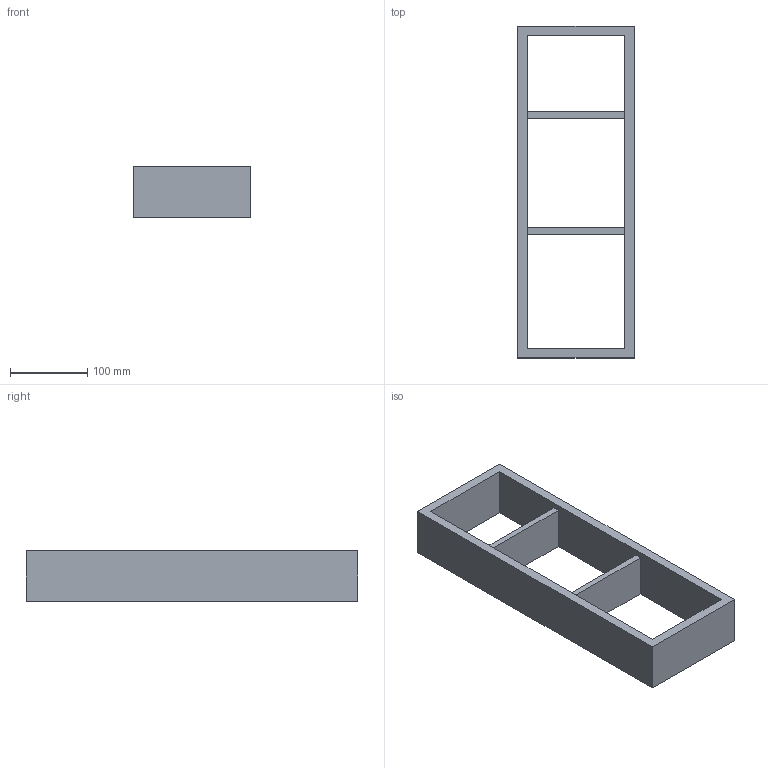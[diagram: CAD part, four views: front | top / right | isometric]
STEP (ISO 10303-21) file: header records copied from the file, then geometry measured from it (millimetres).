
FILE_DESCRIPTION (( 'STEP AP214' ), '1' );
FILE_NAME ('Vario Multi NL450_ZE150_16 mm_Buche.step', '2010-10-07T06:24:20', ( 'grass' ), ( '' ), 'SwSTEP 2.0', 'SolidWorks 2010', '' );
FILE_SCHEMA (( 'AUTOMOTIVE_DESIGN' ));
Length unit declared in the file: millimetre
Products named in the file (1): Vario Multi NL450_ZE150_16 mm_Buche
Bounding box: 150 x 429 x 65 mm (x, y, z)
Volume: 980712 mm3; surface area: 201876 mm2
Topology: 1 solids, 1 shells, 16 faces, 48 edges, 32 vertices
Faces by surface type: plane 16
Entity records: 578 total; most frequent: CARTESIAN_POINT 97, ORIENTED_EDGE 96, DIRECTION 82, EDGE_CURVE 48, LINE 48, VECTOR 48, VERTEX_POINT 32, EDGE_LOOP 20
